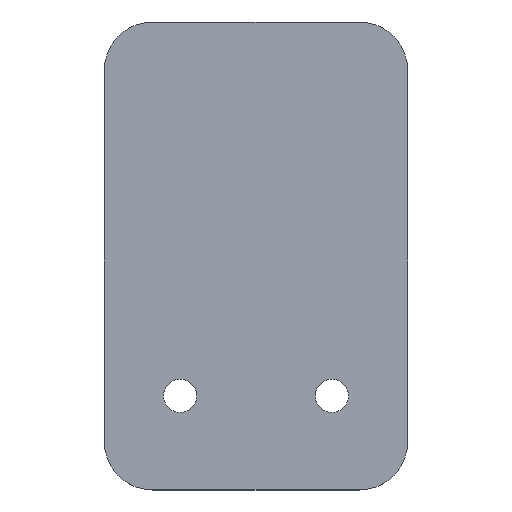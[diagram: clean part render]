
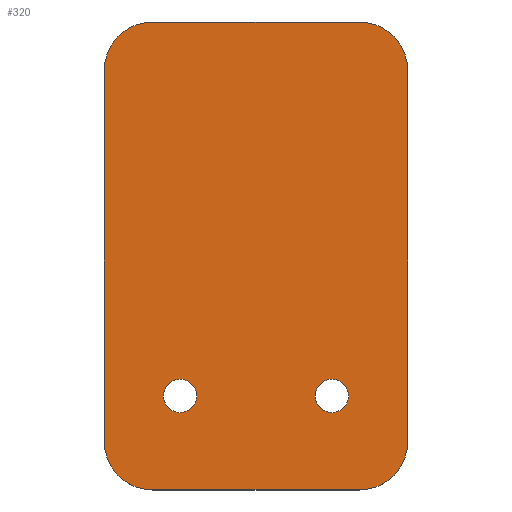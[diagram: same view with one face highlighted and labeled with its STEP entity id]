
A CAD part, top view. The second image highlights one B-rep face of the part: STEP entity #320.
In plain terms, the highlighted planar face has unit normal (0, 0, 1).
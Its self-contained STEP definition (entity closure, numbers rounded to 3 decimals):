
#10 = AXIS2_PLACEMENT_3D ( 'NONE', #288, #372, #11 ) ;
#11 = DIRECTION ( 'NONE',  ( 0., 1., 0. ) ) ;
#17 = EDGE_CURVE ( 'NONE', #95, #25, #330, .T. ) ;
#19 = DIRECTION ( 'NONE',  ( 0., 0., -1. ) ) ;
#20 = ORIENTED_EDGE ( 'NONE', *, *, #85, .T. ) ;
#25 = VERTEX_POINT ( 'NONE', #162 ) ;
#26 = CIRCLE ( 'NONE', #129, 8. ) ;
#27 = DIRECTION ( 'NONE',  ( 0., 0., -1. ) ) ;
#28 = VERTEX_POINT ( 'NONE', #223 ) ;
#35 = CARTESIAN_POINT ( 'NONE',  ( 12.5, 211.165, -20. ) ) ;
#38 = DIRECTION ( 'NONE',  ( 0., 0., -1. ) ) ;
#51 = DIRECTION ( 'NONE',  ( 0., -1., 0. ) ) ;
#53 = EDGE_LOOP ( 'NONE', ( #163, #128, #147, #245, #309, #362, #248, #365 ) ) ;
#54 = FACE_BOUND ( 'NONE', #392, .T. ) ;
#58 = FACE_OUTER_BOUND ( 'NONE', #53, .T. ) ;
#62 = VERTEX_POINT ( 'NONE', #344 ) ;
#65 = CARTESIAN_POINT ( 'NONE',  ( 25., 262., -20. ) ) ;
#80 = CARTESIAN_POINT ( 'NONE',  ( 12.5, 208.415, -20. ) ) ;
#85 = EDGE_CURVE ( 'NONE', #312, #312, #373, .T. ) ;
#87 = CARTESIAN_POINT ( 'NONE',  ( 17., 262., -20. ) ) ;
#95 = VERTEX_POINT ( 'NONE', #371 ) ;
#96 = VERTEX_POINT ( 'NONE', #35 ) ;
#100 = VERTEX_POINT ( 'NONE', #65 ) ;
#111 = VERTEX_POINT ( 'NONE', #192 ) ;
#112 = AXIS2_PLACEMENT_3D ( 'NONE', #142, #292, #140 ) ;
#113 = VECTOR ( 'NONE', #51, 1000. ) ;
#117 = PLANE ( 'NONE',  #345 ) ;
#124 = DIRECTION ( 'NONE',  ( 0., 0., -1. ) ) ;
#128 = ORIENTED_EDGE ( 'NONE', *, *, #331, .F. ) ;
#129 = AXIS2_PLACEMENT_3D ( 'NONE', #210, #27, #239 ) ;
#136 = VECTOR ( 'NONE', #224, 1000. ) ;
#140 = DIRECTION ( 'NONE',  ( 0., -1., 0. ) ) ;
#142 = CARTESIAN_POINT ( 'NONE',  ( -17., 200.915, -20. ) ) ;
#147 = ORIENTED_EDGE ( 'NONE', *, *, #300, .F. ) ;
#149 = FACE_BOUND ( 'NONE', #180, .T. ) ;
#150 = VERTEX_POINT ( 'NONE', #294 ) ;
#152 = DIRECTION ( 'NONE',  ( 1., 0., 0. ) ) ;
#160 = CIRCLE ( 'NONE', #280, 2.75 ) ;
#162 = CARTESIAN_POINT ( 'NONE',  ( 17., 192.915, -20. ) ) ;
#163 = ORIENTED_EDGE ( 'NONE', *, *, #262, .F. ) ;
#170 = CARTESIAN_POINT ( 'NONE',  ( 25., 240.832, -20. ) ) ;
#179 = AXIS2_PLACEMENT_3D ( 'NONE', #87, #216, #187 ) ;
#180 = EDGE_LOOP ( 'NONE', ( #342 ) ) ;
#181 = DIRECTION ( 'NONE',  ( 0., 1., 0. ) ) ;
#187 = DIRECTION ( 'NONE',  ( 0., -1., 0. ) ) ;
#189 = LINE ( 'NONE', #305, #113 ) ;
#192 = CARTESIAN_POINT ( 'NONE',  ( -25., 262., -20. ) ) ;
#193 = EDGE_CURVE ( 'NONE', #62, #394, #287, .T. ) ;
#198 = DIRECTION ( 'NONE',  ( 0., -1., 0. ) ) ;
#202 = VECTOR ( 'NONE', #293, 1000. ) ;
#204 = LINE ( 'NONE', #170, #202 ) ;
#206 = VECTOR ( 'NONE', #152, 1000. ) ;
#210 = CARTESIAN_POINT ( 'NONE',  ( -17., 262., -20. ) ) ;
#216 = DIRECTION ( 'NONE',  ( 0., 0., -1. ) ) ;
#223 = CARTESIAN_POINT ( 'NONE',  ( -17., 270., -20. ) ) ;
#224 = DIRECTION ( 'NONE',  ( 1., 0., 0. ) ) ;
#225 = AXIS2_PLACEMENT_3D ( 'NONE', #315, #38, #198 ) ;
#239 = DIRECTION ( 'NONE',  ( 0., -1., 0. ) ) ;
#244 = CARTESIAN_POINT ( 'NONE',  ( -25., 270., -20. ) ) ;
#245 = ORIENTED_EDGE ( 'NONE', *, *, #358, .F. ) ;
#248 = ORIENTED_EDGE ( 'NONE', *, *, #387, .T. ) ;
#252 = CARTESIAN_POINT ( 'NONE',  ( -25., 200.915, -20. ) ) ;
#254 = CARTESIAN_POINT ( 'NONE',  ( -25., 192.915, -20. ) ) ;
#262 = EDGE_CURVE ( 'NONE', #100, #95, #204, .T. ) ;
#270 = LINE ( 'NONE', #254, #136 ) ;
#272 = CIRCLE ( 'NONE', #179, 8. ) ;
#273 = CARTESIAN_POINT ( 'NONE',  ( -25., 240.832, -20. ) ) ;
#280 = AXIS2_PLACEMENT_3D ( 'NONE', #80, #19, #181 ) ;
#287 = CIRCLE ( 'NONE', #112, 8. ) ;
#288 = CARTESIAN_POINT ( 'NONE',  ( -12.5, 208.415, -20. ) ) ;
#292 = DIRECTION ( 'NONE',  ( 0., 0., -1. ) ) ;
#293 = DIRECTION ( 'NONE',  ( 0., -1., 0. ) ) ;
#294 = CARTESIAN_POINT ( 'NONE',  ( 17., 270., -20. ) ) ;
#300 = EDGE_CURVE ( 'NONE', #28, #150, #338, .T. ) ;
#305 = CARTESIAN_POINT ( 'NONE',  ( -25., 240.832, -20. ) ) ;
#309 = ORIENTED_EDGE ( 'NONE', *, *, #337, .T. ) ;
#312 = VERTEX_POINT ( 'NONE', #377 ) ;
#315 = CARTESIAN_POINT ( 'NONE',  ( 17., 200.915, -20. ) ) ;
#320 = ADVANCED_FACE ( 'NONE', ( #58, #149, #54 ), #117, .F. ) ;
#330 = CIRCLE ( 'NONE', #225, 8. ) ;
#331 = EDGE_CURVE ( 'NONE', #150, #100, #272, .T. ) ;
#337 = EDGE_CURVE ( 'NONE', #111, #394, #189, .T. ) ;
#338 = LINE ( 'NONE', #244, #206 ) ;
#342 = ORIENTED_EDGE ( 'NONE', *, *, #376, .T. ) ;
#344 = CARTESIAN_POINT ( 'NONE',  ( -17., 192.915, -20. ) ) ;
#345 = AXIS2_PLACEMENT_3D ( 'NONE', #273, #124, #366 ) ;
#358 = EDGE_CURVE ( 'NONE', #111, #28, #26, .T. ) ;
#362 = ORIENTED_EDGE ( 'NONE', *, *, #193, .F. ) ;
#365 = ORIENTED_EDGE ( 'NONE', *, *, #17, .F. ) ;
#366 = DIRECTION ( 'NONE',  ( 0., -1., 0. ) ) ;
#371 = CARTESIAN_POINT ( 'NONE',  ( 25., 200.915, -20. ) ) ;
#372 = DIRECTION ( 'NONE',  ( 0., 0., -1. ) ) ;
#373 = CIRCLE ( 'NONE', #10, 2.75 ) ;
#376 = EDGE_CURVE ( 'NONE', #96, #96, #160, .T. ) ;
#377 = CARTESIAN_POINT ( 'NONE',  ( -12.5, 211.165, -20. ) ) ;
#387 = EDGE_CURVE ( 'NONE', #62, #25, #270, .T. ) ;
#392 = EDGE_LOOP ( 'NONE', ( #20 ) ) ;
#394 = VERTEX_POINT ( 'NONE', #252 ) ;
